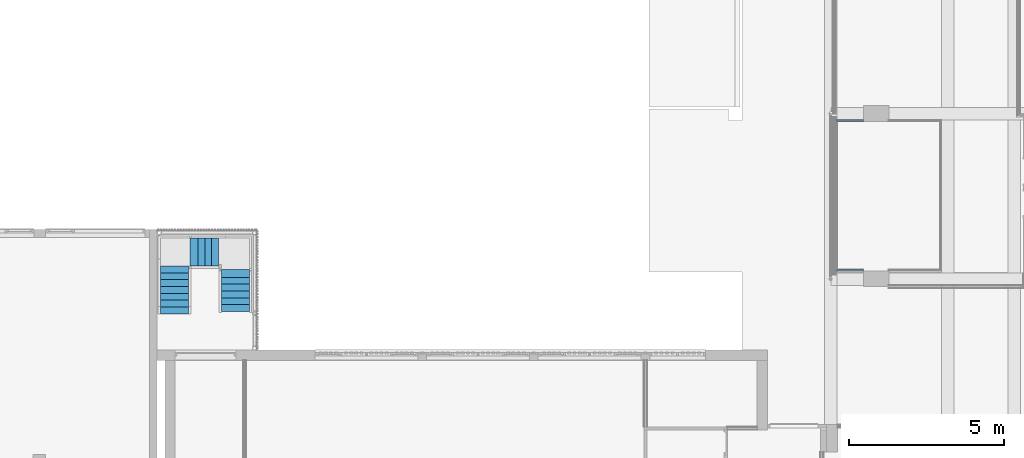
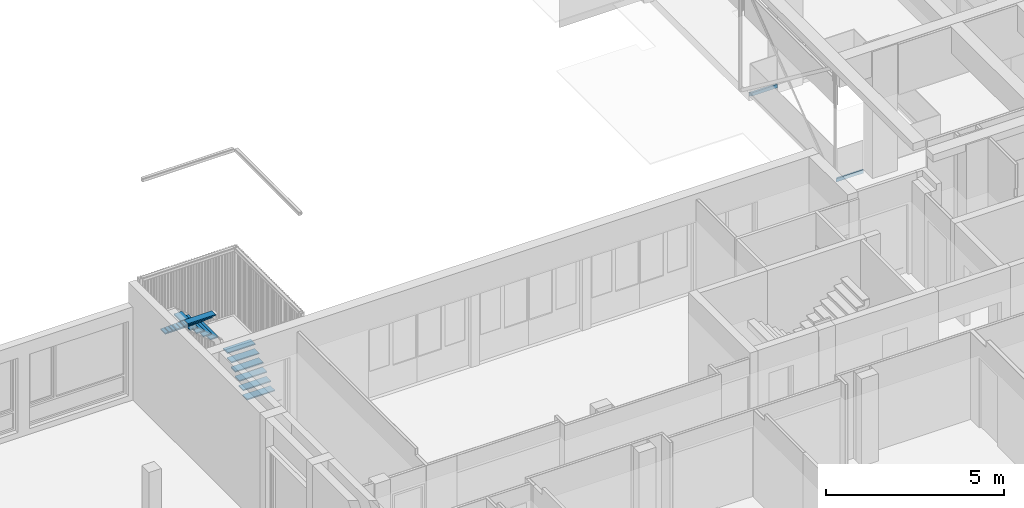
# One storey, part 29 of 117: 19 members, 2 elements without a shape of their own.
"""IFC2X3 building model written with IfcOpenShell, lengths in millimetres."""

from ifc_helpers import new_model, entity, si_unit, converted_unit, derived_unit, money_unit, direction, frame, origin_with_axes, place, context, subcontext, project, spatial, faceted_brep, material, type_object, element, aggregate, save


model = new_model("IFC2X3")

# Units and contexts
model_context = context("Model", 3, precision=0.01, world=origin_with_axes(), true_north=direction((0.0, 1.0)))
body_context = subcontext(model_context, "Body", "Model", "MODEL_VIEW")
ifc_project = project(units=[si_unit("LENGTHUNIT", "METRE", prefix="MILLI"), si_unit("AREAUNIT", "SQUARE_METRE"), si_unit("VOLUMEUNIT", "CUBIC_METRE"), converted_unit("PLANEANGLEUNIT", "DEGREE", entity("IfcPlaneAngleMeasure", 0.0174532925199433), si_unit("PLANEANGLEUNIT", "RADIAN"), dimensions=[0, 0, 0, 0, 0, 0, 0]), money_unit("EUR"), converted_unit("TIMEUNIT", "Year", entity("IfcTimeMeasure", 31557600.0), si_unit("TIMEUNIT", "SECOND"), dimensions=[0, 0, 1, 0, 0, 0, 0]), si_unit("MASSUNIT", "GRAM", prefix="KILO"), si_unit("THERMODYNAMICTEMPERATUREUNIT", "DEGREE_CELSIUS"), si_unit("LUMINOUSINTENSITYUNIT", "LUMEN"), si_unit("ENERGYUNIT", "JOULE", prefix="MEGA"), derived_unit("THERMALCONDUCTANCEUNIT", [(si_unit("POWERUNIT", "WATT"), 1), (si_unit("LENGTHUNIT", "METRE"), -1), (si_unit("THERMODYNAMICTEMPERATUREUNIT", "KELVIN"), -1)]), derived_unit("SPECIFICHEATCAPACITYUNIT", [(si_unit("ENERGYUNIT", "JOULE"), 1), (si_unit("MASSUNIT", "GRAM", prefix="KILO"), -1), (si_unit("THERMODYNAMICTEMPERATUREUNIT", "KELVIN"), -1)]), derived_unit("MASSDENSITYUNIT", [(si_unit("MASSUNIT", "GRAM", prefix="KILO"), 1), (si_unit("VOLUMEUNIT", "CUBIC_METRE"), -1)])], contexts=[model_context])

# Site, building, storey
site_placement = place(None, origin_with_axes())
site = spatial("IfcSite", under=ifc_project, at=site_placement, Name="Site", CompositionType="ELEMENT")
building_placement = place(site_placement, origin_with_axes())
building = spatial("IfcBuilding", under=site, at=building_placement, Name="Naam gebouw", CompositionType="ELEMENT")
storey_placement = place(building_placement, frame((0.0, 0.0, 4150.0), z_axis=(0.0, 0.0, 1.0), x_axis=(1.0, 0.0, 0.0)))
storey = spatial("IfcBuildingStorey", under=building, at=storey_placement, Name="1e verdieping N", CompositionType="ELEMENT", Elevation=4150.0)

# Railing, members
railing_type = type_object("IfcRailingType", Name="Railing Type", PredefinedType="NOTDEFINED")
railing_placement = place(storey_placement, frame((21426.0, 22875.91242510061, -115.0000000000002), z_axis=(0.0, 0.0, 1.0), x_axis=(1.0, 0.0, 0.0)))
railing = element("IfcRailing", 1, at=railing_placement, inside=storey, type_object=railing_type, Name="_Reling-x", PredefinedType="NOTDEFINED")
ifc_material_1 = material(Name="Metaal - Aluminium")
member_type_1 = type_object("IfcMemberType", Name="IfcMember", PredefinedType="USERDEFINED")
member_1_placement = place(railing_placement, frame((-430.000002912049, 30.00000000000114, -7.355608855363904), z_axis=(0.0, 0.0, 1.0), x_axis=(1.0, 0.0, 0.0)))
member_1 = element("IfcMember", 2, at=member_1_placement, type_object=member_type_1, material=ifc_material_1, Name="_Regel-x", context=body_context, shape_type="Brep", body=[
    faceted_brep([(430.000002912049, 30.00000000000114, 122.3556088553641), (430.000002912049, 30.00000000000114, 7.355608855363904), (-400.000008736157, 30.00000000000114, 7.355608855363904), (-400.000008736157, 30.00000000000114, 122.3556088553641), (430.000002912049, -30.00000000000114, 122.3556088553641), (430.000002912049, -30.00000000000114, 7.355608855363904), (-459.9999970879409, -30.00000000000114, 7.355608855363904), (-459.9999970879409, -30.00000000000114, 122.3556088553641)], [[[0, 1, 2, 3]], [[0, 4, 5, 1]], [[1, 5, 6, 2]], [[3, 2, 6, 7]], [[4, 0, 3, 7]], [[5, 4, 7, 6]]]),
])
member_2_placement = place(railing_placement, frame((-430.0004353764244, 4849.999999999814, -7.355608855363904), z_axis=(0.0, 0.0, 1.0), x_axis=(1.0, 0.0, 0.0)))
member_2 = element("IfcMember", 3, at=member_2_placement, type_object=member_type_1, material=ifc_material_1, Name="_Regel-x", context=body_context, shape_type="Brep", body=[
    faceted_brep([(-400.0005003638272, -30.00000000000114, 122.3556088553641), (-400.0005003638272, -30.00000000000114, 7.355608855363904), (430.0005061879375, -30.00000000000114, 7.355608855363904), (430.0005061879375, -30.00000000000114, 122.3556088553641), (-460.0005120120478, 30.00000000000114, 122.3556088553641), (-460.0005120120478, 30.00000000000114, 7.355608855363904), (430.0005061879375, 30.00000000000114, 7.355608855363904), (430.0005061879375, 30.00000000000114, 122.3556088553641)], [[[0, 1, 2, 3]], [[0, 4, 5, 1]], [[1, 5, 6, 2]], [[3, 2, 6, 7]], [[4, 0, 3, 7]], [[5, 4, 7, 6]]]),
])
aggregate(railing, [member_1, member_2])

# Stair, members
stair_placement = place(storey_placement, frame((1624.999999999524, 21575.82979156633, 0.0), z_axis=(0.0, 0.0, 1.0), x_axis=(1.0, 0.0, 0.0)))
stair = element("IfcStair", 4, at=stair_placement, inside=storey, Name="_Trap-x", ShapeType="NOTDEFINED")
ifc_material_2 = material(Name="Metaal - Staal C")
member_type_2 = type_object("IfcMemberType", Name="IfcMember", PredefinedType="USERDEFINED")
member_3_placement = place(stair_placement, frame((-449.9999999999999, 219.9999999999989, 368.4210526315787), z_axis=(0.0, 0.0, 1.0), x_axis=(1.0, 0.0, 0.0)))
member_3 = element("IfcMember", 5, at=member_3_placement, type_object=member_type_2, material=ifc_material_2, Name="_Traptrede-x", context=body_context, shape_type="Brep", body=[
    faceted_brep([(-450.0, 0.0, -38.0), (450.0, 0.0, -38.0), (450.0, 0.0, 0.0), (-450.0, 0.0, 0.0), (-450.0, 260.0000044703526, -38.0), (450.0, 260.0000044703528, -38.0), (450.0, 260.0000044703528, 0.0), (-450.0, 260.0000044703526, 0.0)], [[[0, 1, 2, 3]], [[0, 4, 5, 1]], [[1, 5, 6, 2]], [[3, 2, 6, 7]], [[4, 0, 3, 7]], [[5, 4, 7, 6]]]),
])
member_4_placement = place(stair_placement, frame((-449.9999999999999, 0.0, 184.2105263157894), z_axis=(0.0, 0.0, 1.0), x_axis=(1.0, 0.0, 0.0)))
member_4 = element("IfcMember", 6, at=member_4_placement, type_object=member_type_2, material=ifc_material_2, Name="_Traptrede-x", context=body_context, shape_type="Brep", body=[
    faceted_brep([(-450.0, 0.0, -38.0), (450.0, 0.0, -38.0), (450.0, 0.0, 0.0), (-450.0, 0.0, 0.0), (-450.0, 260.0000044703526, -38.0), (450.0, 260.0000044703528, -38.0), (450.0, 260.0000044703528, 0.0), (-450.0, 260.0000044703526, 0.0)], [[[0, 1, 2, 3]], [[0, 4, 5, 1]], [[1, 5, 6, 2]], [[3, 2, 6, 7]], [[4, 0, 3, 7]], [[5, 4, 7, 6]]]),
])
member_5_placement = place(stair_placement, frame((-449.9999999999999, 660.0000000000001, 736.8421052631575), z_axis=(0.0, 0.0, 1.0), x_axis=(1.0, 0.0, 0.0)))
member_5 = element("IfcMember", 7, at=member_5_placement, type_object=member_type_2, material=ifc_material_2, Name="_Traptrede-x", context=body_context, shape_type="Brep", body=[
    faceted_brep([(-450.0, 0.0, -38.0), (450.0, 0.0, -38.0), (450.0, 0.0, 0.0), (-450.0, 0.0, 0.0), (-450.0, 260.0000044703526, -38.0), (450.0, 260.0000044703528, -38.0), (450.0, 260.0000044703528, 0.0), (-450.0, 260.0000044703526, 0.0)], [[[0, 1, 2, 3]], [[0, 4, 5, 1]], [[1, 5, 6, 2]], [[3, 2, 6, 7]], [[4, 0, 3, 7]], [[5, 4, 7, 6]]]),
])
member_6_placement = place(stair_placement, frame((-449.9999999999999, 879.999999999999, 921.052631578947), z_axis=(0.0, 0.0, 1.0), x_axis=(1.0, 0.0, 0.0)))
member_6 = element("IfcMember", 8, at=member_6_placement, type_object=member_type_2, material=ifc_material_2, Name="_Traptrede-x", context=body_context, shape_type="Brep", body=[
    faceted_brep([(-450.0, 0.0, -38.0), (450.0, 0.0, -38.0), (450.0, 0.0, 0.0), (-450.0, 0.0, 0.0), (-450.0, 260.0000044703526, -38.0), (450.0, 260.0000044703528, -38.0), (450.0, 260.0000044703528, 0.0), (-450.0, 260.0000044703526, 0.0)], [[[0, 1, 2, 3]], [[0, 4, 5, 1]], [[1, 5, 6, 2]], [[3, 2, 6, 7]], [[4, 0, 3, 7]], [[5, 4, 7, 6]]]),
])
member_7_placement = place(stair_placement, frame((-449.9999999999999, 440.0000000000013, 552.6315789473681), z_axis=(0.0, 0.0, 1.0), x_axis=(1.0, 0.0, 0.0)))
member_7 = element("IfcMember", 9, at=member_7_placement, type_object=member_type_2, material=ifc_material_2, Name="_Traptrede-x", context=body_context, shape_type="Brep", body=[
    faceted_brep([(-450.0, 0.0, -38.0), (450.0, 0.0, -38.0), (450.0, 0.0, 0.0), (-450.0, 0.0, 0.0), (-450.0, 260.0000044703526, -38.0), (450.0, 260.0000044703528, -38.0), (450.0, 260.0000044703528, 0.0), (-450.0, 260.0000044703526, 0.0)], [[[0, 1, 2, 3]], [[0, 4, 5, 1]], [[1, 5, 6, 2]], [[3, 2, 6, 7]], [[4, 0, 3, 7]], [[5, 4, 7, 6]]]),
])
member_8_placement = place(stair_placement, frame((-449.9999999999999, 1100.000000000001, 1105.263157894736), z_axis=(0.0, 0.0, 1.0), x_axis=(1.0, 0.0, 0.0)))
member_8 = element("IfcMember", 10, at=member_8_placement, type_object=member_type_2, material=ifc_material_2, Name="_Traptrede-x", context=body_context, shape_type="Brep", body=[
    faceted_brep([(-450.0, 0.0, -38.0), (450.0, 0.0, -38.0), (450.0, 0.0, 0.0), (-450.0, 0.0, 0.0), (-450.0, 260.0000044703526, -38.0), (450.0, 260.0000044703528, -38.0), (450.0, 260.0000044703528, 0.0), (-450.0, 260.0000044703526, 0.0)], [[[0, 1, 2, 3]], [[0, 4, 5, 1]], [[1, 5, 6, 2]], [[3, 2, 6, 7]], [[4, 0, 3, 7]], [[5, 4, 7, 6]]]),
])
member_9_placement = place(stair_placement, frame((-1209.999999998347, 1915.000000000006, 1657.894736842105), z_axis=(0.0, 0.0, 1.0), x_axis=(0.0, 1.0, 0.0)))
member_9 = element("IfcMember", 11, at=member_9_placement, type_object=member_type_2, material=ifc_material_2, Name="_Traptrede-x", context=body_context, shape_type="Brep", body=[
    faceted_brep([(-450.0, 0.0, -38.0), (450.0, 0.0, -38.0), (450.0, 0.0, 0.0), (-450.0, 0.0, 0.0), (-450.0, 260.0000044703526, -38.0), (450.0, 260.0000044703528, -38.0), (450.0, 260.0000044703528, 0.0), (-450.0, 260.0000044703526, 0.0)], [[[0, 1, 2, 3]], [[0, 4, 5, 1]], [[1, 5, 6, 2]], [[3, 2, 6, 7]], [[4, 0, 3, 7]], [[5, 4, 7, 6]]]),
])
member_10_placement = place(stair_placement, frame((-1429.999999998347, 1915.000000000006, 1842.105263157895), z_axis=(0.0, 0.0, 1.0), x_axis=(0.0, 1.0, 0.0)))
member_10 = element("IfcMember", 12, at=member_10_placement, type_object=member_type_2, material=ifc_material_2, Name="_Traptrede-x", context=body_context, shape_type="Brep", body=[
    faceted_brep([(-450.0, 0.0, -38.0), (450.0, 0.0, -38.0), (450.0, 0.0, 0.0), (-450.0, 0.0, 0.0), (-450.0, 260.0000044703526, -38.0), (450.0, 260.0000044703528, -38.0), (450.0, 260.0000044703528, 0.0), (-450.0, 260.0000044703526, 0.0)], [[[0, 1, 2, 3]], [[0, 4, 5, 1]], [[1, 5, 6, 2]], [[3, 2, 6, 7]], [[4, 0, 3, 7]], [[5, 4, 7, 6]]]),
])
member_11_placement = place(stair_placement, frame((-989.9999999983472, 1915.000000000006, 1473.684210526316), z_axis=(0.0, 0.0, 1.0), x_axis=(0.0, 1.0, 0.0)))
member_11 = element("IfcMember", 13, at=member_11_placement, type_object=member_type_2, material=ifc_material_2, Name="_Traptrede-x", context=body_context, shape_type="Brep", body=[
    faceted_brep([(-450.0, 0.0, -38.0), (450.0, 0.0, -38.0), (450.0, 0.0, 0.0), (-450.0, 0.0, 0.0), (-450.0, 260.0000044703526, -38.0), (450.0, 260.0000044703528, -38.0), (450.0, 260.0000044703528, 0.0), (-450.0, 260.0000044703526, 0.0)], [[[0, 1, 2, 3]], [[0, 4, 5, 1]], [[1, 5, 6, 2]], [[3, 2, 6, 7]], [[4, 0, 3, 7]], [[5, 4, 7, 6]]]),
])
member_12_placement = place(stair_placement, frame((-1649.999999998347, 1915.000000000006, 2026.315789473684), z_axis=(0.0, 0.0, 1.0), x_axis=(0.0, 1.0, 0.0)))
member_12 = element("IfcMember", 14, at=member_12_placement, type_object=member_type_2, material=ifc_material_2, Name="_Traptrede-x", context=body_context, shape_type="Brep", body=[
    faceted_brep([(-450.0, 0.0, -38.0), (450.0, 0.0, -38.0), (450.0, 0.0, 0.0), (-450.0, 0.0, 0.0), (-450.0, 260.0000044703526, -38.0), (450.0, 260.0000044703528, -38.0), (450.0, 260.0000044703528, 0.0), (-450.0, 260.0000044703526, 0.0)], [[[0, 1, 2, 3]], [[0, 4, 5, 1]], [[1, 5, 6, 2]], [[3, 2, 6, 7]], [[4, 0, 3, 7]], [[5, 4, 7, 6]]]),
])
member_13_placement = place(stair_placement, frame((-2409.999999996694, 1465.000000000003, 2394.736842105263), z_axis=(0.0, 0.0, 1.0), x_axis=(-1.0, 0.0, 0.0)))
member_13 = element("IfcMember", 15, at=member_13_placement, type_object=member_type_2, material=ifc_material_2, Name="_Traptrede-x", context=body_context, shape_type="Brep", body=[
    faceted_brep([(450.0000000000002, 8.940705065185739e-06, -38.0), (450.0000000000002, 259.9999999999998, -38.0), (450.0000000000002, 259.9999999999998, 0.0), (450.0000000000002, 8.940705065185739e-06, 0.0), (-449.9999999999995, -4.470352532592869e-06, -38.0), (-449.9999999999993, 260.0, -38.0), (-449.9999999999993, 260.0, 0.0), (-449.9999999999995, -4.470352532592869e-06, 0.0)], [[[0, 1, 2, 3]], [[0, 4, 5, 1]], [[1, 5, 6, 2]], [[3, 2, 6, 7]], [[4, 0, 3, 7]], [[5, 4, 7, 6]]]),
])
member_14_placement = place(stair_placement, frame((-2409.999999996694, 1245.000000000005, 2578.947368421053), z_axis=(0.0, 0.0, 1.0), x_axis=(-1.0, 0.0, 0.0)))
member_14 = element("IfcMember", 16, at=member_14_placement, type_object=member_type_2, material=ifc_material_2, Name="_Traptrede-x", context=body_context, shape_type="Brep", body=[
    faceted_brep([(-450.0, 0.0, -38.0), (450.0, 0.0, -38.0), (450.0, 0.0, 0.0), (-450.0, 0.0, 0.0), (-450.0, 260.0000044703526, -38.0), (450.0, 260.0000044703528, -38.0), (450.0, 260.0000044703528, 0.0), (-450.0, 260.0000044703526, 0.0)], [[[0, 1, 2, 3]], [[0, 4, 5, 1]], [[1, 5, 6, 2]], [[3, 2, 6, 7]], [[4, 0, 3, 7]], [[5, 4, 7, 6]]]),
])
member_15_placement = place(stair_placement, frame((-2409.999999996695, 805.0000000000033, 2947.368421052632), z_axis=(0.0, 0.0, 1.0), x_axis=(-1.0, 0.0, 0.0)))
member_15 = element("IfcMember", 17, at=member_15_placement, type_object=member_type_2, material=ifc_material_2, Name="_Traptrede-x", context=body_context, shape_type="Brep", body=[
    faceted_brep([(-450.0, 0.0, -38.0), (450.0, 0.0, -38.0), (450.0, 0.0, 0.0), (-450.0, 0.0, 0.0), (-450.0, 260.0000044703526, -38.0), (450.0, 260.0000044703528, -38.0), (450.0, 260.0000044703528, 0.0), (-450.0, 260.0000044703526, 0.0)], [[[0, 1, 2, 3]], [[0, 4, 5, 1]], [[1, 5, 6, 2]], [[3, 2, 6, 7]], [[4, 0, 3, 7]], [[5, 4, 7, 6]]]),
])
member_16_placement = place(stair_placement, frame((-2409.999999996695, 585.0000000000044, 3131.578947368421), z_axis=(0.0, 0.0, 1.0), x_axis=(-1.0, 0.0, 0.0)))
member_16 = element("IfcMember", 18, at=member_16_placement, type_object=member_type_2, material=ifc_material_2, Name="_Traptrede-x", context=body_context, shape_type="Brep", body=[
    faceted_brep([(-450.0, 0.0, -38.0), (450.0, 0.0, -38.0), (450.0, 0.0, 0.0), (-450.0, 0.0, 0.0), (-450.0, 260.0000044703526, -38.0), (450.0, 260.0000044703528, -38.0), (450.0, 260.0000044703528, 0.0), (-450.0, 260.0000044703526, 0.0)], [[[0, 1, 2, 3]], [[0, 4, 5, 1]], [[1, 5, 6, 2]], [[3, 2, 6, 7]], [[4, 0, 3, 7]], [[5, 4, 7, 6]]]),
])
member_17_placement = place(stair_placement, frame((-2409.999999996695, 365.0000000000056, 3315.78947368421), z_axis=(0.0, 0.0, 1.0), x_axis=(-1.0, 0.0, 0.0)))
member_17 = element("IfcMember", 19, at=member_17_placement, type_object=member_type_2, material=ifc_material_2, Name="_Traptrede-x", context=body_context, shape_type="Brep", body=[
    faceted_brep([(-450.0, 0.0, -38.0), (450.0, 0.0, -38.0), (450.0, 0.0, 0.0), (-450.0, 0.0, 0.0), (-450.0, 260.0000044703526, -38.0), (450.0, 260.0000044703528, -38.0), (450.0, 260.0000044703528, 0.0), (-450.0, 260.0000044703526, 0.0)], [[[0, 1, 2, 3]], [[0, 4, 5, 1]], [[1, 5, 6, 2]], [[3, 2, 6, 7]], [[4, 0, 3, 7]], [[5, 4, 7, 6]]]),
])
member_18_placement = place(stair_placement, frame((-2409.999999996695, 145.0000000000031, 3500.0), z_axis=(0.0, 0.0, 1.0), x_axis=(-1.0, 0.0, 0.0)))
member_18 = element("IfcMember", 20, at=member_18_placement, type_object=member_type_2, material=ifc_material_2, Name="_Traptrede-x", context=body_context, shape_type="Brep", body=[
    faceted_brep([(-449.9999999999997, 0.0, -38.0), (450.0000000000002, 0.0, -38.0), (450.0000000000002, 0.0, 0.0), (-449.9999999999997, 0.0, 0.0), (-449.9999999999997, 220.000000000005, -38.0), (450.0000000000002, 220.0000000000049, -38.0), (450.0000000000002, 220.0000000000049, 0.0), (-449.9999999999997, 220.000000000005, 0.0)], [[[0, 1, 2, 3]], [[0, 4, 5, 1]], [[1, 5, 6, 2]], [[3, 2, 6, 7]], [[4, 0, 3, 7]], [[5, 4, 7, 6]]]),
])
member_19_placement = place(stair_placement, frame((-2409.999999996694, 1025.000000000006, 2763.157894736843), z_axis=(0.0, 0.0, 1.0), x_axis=(-1.0, 0.0, 0.0)))
member_19 = element("IfcMember", 21, at=member_19_placement, type_object=member_type_2, material=ifc_material_2, Name="_Traptrede-x", context=body_context, shape_type="Brep", body=[
    faceted_brep([(-450.0, 0.0, -38.0), (450.0, 0.0, -38.0), (450.0, 0.0, 0.0), (-450.0, 0.0, 0.0), (-450.0, 260.0000044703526, -38.0), (450.0, 260.0000044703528, -38.0), (450.0, 260.0000044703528, 0.0), (-450.0, 260.0000044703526, 0.0)], [[[0, 1, 2, 3]], [[0, 4, 5, 1]], [[1, 5, 6, 2]], [[3, 2, 6, 7]], [[4, 0, 3, 7]], [[5, 4, 7, 6]]]),
])
aggregate(stair, [member_3, member_4, member_5, member_6, member_7, member_8, member_9, member_10, member_11, member_12, member_13, member_14, member_15, member_16, member_17, member_18, member_19])

save(model, "model.ifc")
